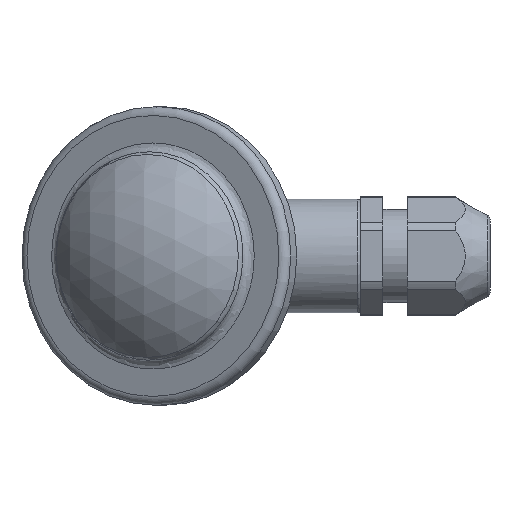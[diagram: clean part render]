
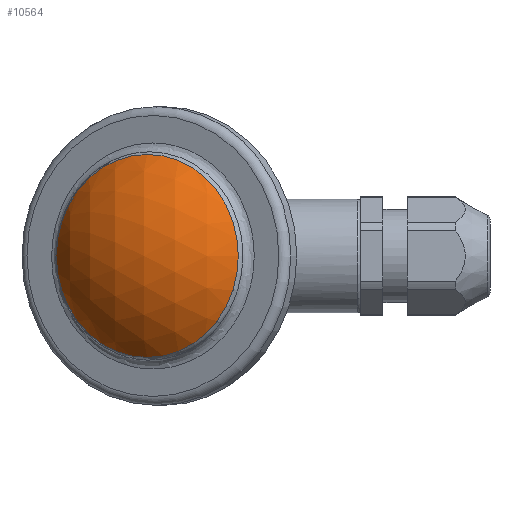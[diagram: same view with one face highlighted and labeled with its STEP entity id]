
A CAD part, top view. The second image highlights one B-rep face of the part: STEP entity #10564.
In plain terms, the highlighted spherical face has radius 32.84 mm.
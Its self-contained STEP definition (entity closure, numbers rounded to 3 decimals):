
#45=SPHERICAL_SURFACE('',#11100,32.84);
#1175=FACE_OUTER_BOUND('',#1799,.T.);
#1799=EDGE_LOOP('',(#9531));
#1991=CIRCLE('',#11099,22.756);
#5225=VERTEX_POINT('',#21589);
#6682=EDGE_CURVE('',#5225,#5225,#1991,.T.);
#9531=ORIENTED_EDGE('',*,*,#6682,.F.);
#10564=ADVANCED_FACE('',(#1175),#45,.T.);
#11099=AXIS2_PLACEMENT_3D('',#21591,#13013,#13014);
#11100=AXIS2_PLACEMENT_3D('',#21592,#13015,#13016);
#13013=DIRECTION('center_axis',(0.444,0.,
-0.896));
#13014=DIRECTION('ref_axis',(-0.896,0.,-0.444));
#13015=DIRECTION('center_axis',(1.,0.,0.));
#13016=DIRECTION('ref_axis',(0.,0.001,
1.));
#21589=CARTESIAN_POINT('',(15.586,0.,72.308));
#21591=CARTESIAN_POINT('Origin',(-4.808,0.,
62.212));
#21592=CARTESIAN_POINT('Origin',(5.696,0.,
40.993));
